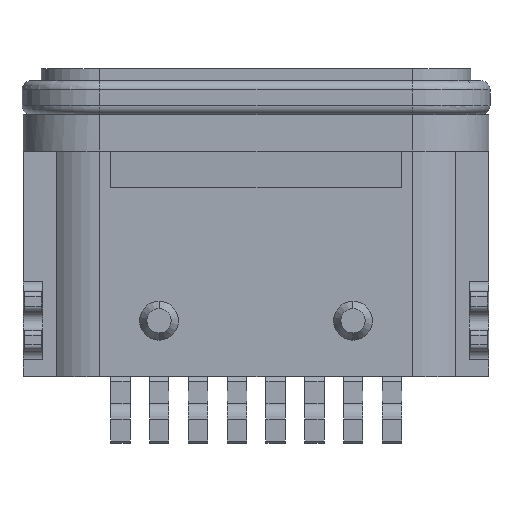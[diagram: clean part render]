
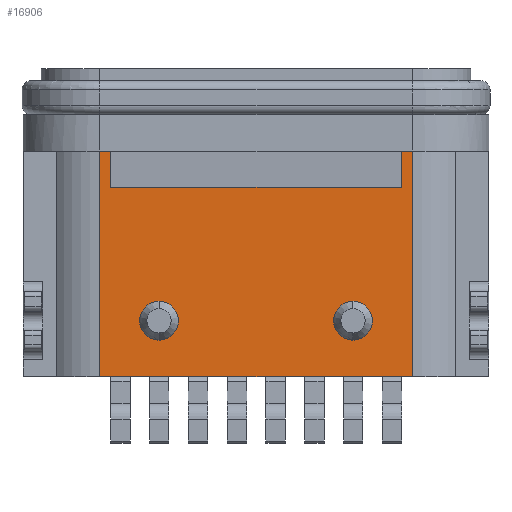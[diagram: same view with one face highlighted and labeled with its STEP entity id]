
A CAD part, front view. The second image highlights one B-rep face of the part: STEP entity #16906.
In plain terms, the highlighted planar face has unit normal (0, -1, 0).
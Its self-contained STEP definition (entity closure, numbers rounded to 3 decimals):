
#177 = VECTOR ( 'NONE', #20867, 1000. ) ;
#455 = LINE ( 'NONE', #6515, #15494 ) ;
#530 = VERTEX_POINT ( 'NONE', #16602 ) ;
#555 = ORIENTED_EDGE ( 'NONE', *, *, #2419, .T. ) ;
#597 = CARTESIAN_POINT ( 'NONE',  ( -59.841, -32.397, 72.297 ) ) ;
#601 = CARTESIAN_POINT ( 'NONE',  ( -58.093, -32.397, 69.542 ) ) ;
#839 = LINE ( 'NONE', #1102, #16344 ) ;
#1102 = CARTESIAN_POINT ( 'NONE',  ( -59.493, -32.397, 68.312 ) ) ;
#1457 = VERTEX_POINT ( 'NONE', #2686 ) ;
#1496 = ORIENTED_EDGE ( 'NONE', *, *, #19149, .F. ) ;
#1603 = ORIENTED_EDGE ( 'NONE', *, *, #16473, .T. ) ;
#1640 = EDGE_CURVE ( 'NONE', #20247, #12661, #3957, .T. ) ;
#1736 = CARTESIAN_POINT ( 'NONE',  ( -54.892, -32.397, 69.542 ) ) ;
#1850 = CARTESIAN_POINT ( 'NONE',  ( -58.892, -32.397, 69.542 ) ) ;
#2293 = CARTESIAN_POINT ( 'NONE',  ( -59.713, -32.397, 68.312 ) ) ;
#2419 = EDGE_CURVE ( 'NONE', #18925, #17458, #455, .T. ) ;
#2591 = EDGE_CURVE ( 'NONE', #18925, #11196, #839, .T. ) ;
#2686 = CARTESIAN_POINT ( 'NONE',  ( -53.273, -32.397, 73.042 ) ) ;
#2930 = ORIENTED_EDGE ( 'NONE', *, *, #22454, .F. ) ;
#3292 = DIRECTION ( 'NONE',  ( -1., 0., 0. ) ) ;
#3957 = CIRCLE ( 'NONE', #7312, 0.4 ) ;
#4138 = ORIENTED_EDGE ( 'NONE', *, *, #2591, .F. ) ;
#4174 = CIRCLE ( 'NONE', #23966, 0.4 ) ;
#4929 = DIRECTION ( 'NONE',  ( 0., -1., 0. ) ) ;
#5224 = CIRCLE ( 'NONE', #7340, 0.4 ) ;
#5239 = LINE ( 'NONE', #13291, #13227 ) ;
#5636 = DIRECTION ( 'NONE',  ( 1., 0., 0. ) ) ;
#6008 = ORIENTED_EDGE ( 'NONE', *, *, #9047, .F. ) ;
#6291 = ORIENTED_EDGE ( 'NONE', *, *, #12412, .F. ) ;
#6479 = DIRECTION ( 'NONE',  ( 1., 0., 0. ) ) ;
#6515 = CARTESIAN_POINT ( 'NONE',  ( -51.584, -32.397, 73.042 ) ) ;
#6533 = VERTEX_POINT ( 'NONE', #20828 ) ;
#7037 = DIRECTION ( 'NONE',  ( 1., 0., 0. ) ) ;
#7084 = CARTESIAN_POINT ( 'NONE',  ( -59.841, -32.397, 68.312 ) ) ;
#7312 = AXIS2_PLACEMENT_3D ( 'NONE', #17962, #18481, #6479 ) ;
#7340 = AXIS2_PLACEMENT_3D ( 'NONE', #8298, #7911, #24261 ) ;
#7740 = DIRECTION ( 'NONE',  ( 0., -1., 0. ) ) ;
#7911 = DIRECTION ( 'NONE',  ( 0., -1., 0. ) ) ;
#8167 = CARTESIAN_POINT ( 'NONE',  ( -61.349, -32.397, 68.392 ) ) ;
#8298 = CARTESIAN_POINT ( 'NONE',  ( -54.493, -32.397, 69.542 ) ) ;
#8419 = DIRECTION ( 'NONE',  ( 1., 0., 0. ) ) ;
#9047 = EDGE_CURVE ( 'NONE', #21739, #10468, #10869, .T. ) ;
#9327 = PLANE ( 'NONE',  #18644 ) ;
#9838 = CARTESIAN_POINT ( 'NONE',  ( -59.493, -32.397, 73.042 ) ) ;
#9839 = DIRECTION ( 'NONE',  ( 1., 0., 0. ) ) ;
#9893 = EDGE_CURVE ( 'NONE', #12661, #20247, #4174, .T. ) ;
#10006 = LINE ( 'NONE', #8167, #13482 ) ;
#10468 = VERTEX_POINT ( 'NONE', #24052 ) ;
#10523 = EDGE_LOOP ( 'NONE', ( #555, #6291, #18569, #2930, #1603, #25683, #1496, #4138 ) ) ;
#10869 = CIRCLE ( 'NONE', #23091, 0.4 ) ;
#10947 = EDGE_LOOP ( 'NONE', ( #24034, #25901 ) ) ;
#11196 = VERTEX_POINT ( 'NONE', #16703 ) ;
#11235 = ORIENTED_EDGE ( 'NONE', *, *, #22098, .F. ) ;
#12412 = EDGE_CURVE ( 'NONE', #19097, #17458, #14541, .T. ) ;
#12661 = VERTEX_POINT ( 'NONE', #1850 ) ;
#13058 = CARTESIAN_POINT ( 'NONE',  ( -59.713, -32.397, 73.042 ) ) ;
#13227 = VECTOR ( 'NONE', #19356, 1000. ) ;
#13291 = CARTESIAN_POINT ( 'NONE',  ( -53.273, -32.397, 68.312 ) ) ;
#13482 = VECTOR ( 'NONE', #8419, 1000. ) ;
#14541 = LINE ( 'NONE', #2293, #23640 ) ;
#15130 = FACE_BOUND ( 'NONE', #10947, .T. ) ;
#15494 = VECTOR ( 'NONE', #18388, 1000. ) ;
#15659 = FACE_OUTER_BOUND ( 'NONE', #10523, .T. ) ;
#16287 = CARTESIAN_POINT ( 'NONE',  ( -59.713, -32.397, 68.392 ) ) ;
#16344 = VECTOR ( 'NONE', #19168, 1000. ) ;
#16473 = EDGE_CURVE ( 'NONE', #1457, #530, #21766, .T. ) ;
#16602 = CARTESIAN_POINT ( 'NONE',  ( -53.493, -32.397, 73.042 ) ) ;
#16703 = CARTESIAN_POINT ( 'NONE',  ( -59.493, -32.397, 72.297 ) ) ;
#16906 = ADVANCED_FACE ( 'NONE', ( #15659, #25164, #15130 ), #9327, .F. ) ;
#17046 = CARTESIAN_POINT ( 'NONE',  ( -53.493, -32.397, 68.312 ) ) ;
#17382 = VECTOR ( 'NONE', #22231, 1000. ) ;
#17458 = VERTEX_POINT ( 'NONE', #13058 ) ;
#17962 = CARTESIAN_POINT ( 'NONE',  ( -58.493, -32.397, 69.542 ) ) ;
#18388 = DIRECTION ( 'NONE',  ( -1., 0., 0. ) ) ;
#18481 = DIRECTION ( 'NONE',  ( 0., -1., 0. ) ) ;
#18569 = ORIENTED_EDGE ( 'NONE', *, *, #21317, .T. ) ;
#18644 = AXIS2_PLACEMENT_3D ( 'NONE', #7084, #23175, #5636 ) ;
#18662 = LINE ( 'NONE', #597, #17382 ) ;
#18925 = VERTEX_POINT ( 'NONE', #9838 ) ;
#19097 = VERTEX_POINT ( 'NONE', #16287 ) ;
#19149 = EDGE_CURVE ( 'NONE', #11196, #25789, #18662, .T. ) ;
#19168 = DIRECTION ( 'NONE',  ( 0., 0., -1. ) ) ;
#19356 = DIRECTION ( 'NONE',  ( 0., 0., -1. ) ) ;
#19419 = LINE ( 'NONE', #17046, #177 ) ;
#19457 = EDGE_LOOP ( 'NONE', ( #11235, #6008 ) ) ;
#20247 = VERTEX_POINT ( 'NONE', #601 ) ;
#20625 = CARTESIAN_POINT ( 'NONE',  ( -53.493, -32.397, 72.297 ) ) ;
#20693 = EDGE_CURVE ( 'NONE', #25789, #530, #19419, .T. ) ;
#20764 = CARTESIAN_POINT ( 'NONE',  ( -54.493, -32.397, 69.542 ) ) ;
#20828 = CARTESIAN_POINT ( 'NONE',  ( -53.273, -32.397, 68.392 ) ) ;
#20867 = DIRECTION ( 'NONE',  ( 0., 0., 1. ) ) ;
#21317 = EDGE_CURVE ( 'NONE', #19097, #6533, #10006, .T. ) ;
#21569 = VECTOR ( 'NONE', #3292, 1000. ) ;
#21593 = CARTESIAN_POINT ( 'NONE',  ( -58.493, -32.397, 69.542 ) ) ;
#21739 = VERTEX_POINT ( 'NONE', #1736 ) ;
#21766 = LINE ( 'NONE', #25323, #21569 ) ;
#22098 = EDGE_CURVE ( 'NONE', #10468, #21739, #5224, .T. ) ;
#22231 = DIRECTION ( 'NONE',  ( 1., 0., 0. ) ) ;
#22454 = EDGE_CURVE ( 'NONE', #1457, #6533, #5239, .T. ) ;
#22594 = DIRECTION ( 'NONE',  ( 0., 0., 1. ) ) ;
#23091 = AXIS2_PLACEMENT_3D ( 'NONE', #20764, #4929, #7037 ) ;
#23175 = DIRECTION ( 'NONE',  ( 0., 1., 0. ) ) ;
#23640 = VECTOR ( 'NONE', #22594, 1000. ) ;
#23966 = AXIS2_PLACEMENT_3D ( 'NONE', #21593, #7740, #9839 ) ;
#24034 = ORIENTED_EDGE ( 'NONE', *, *, #1640, .F. ) ;
#24052 = CARTESIAN_POINT ( 'NONE',  ( -54.093, -32.397, 69.542 ) ) ;
#24261 = DIRECTION ( 'NONE',  ( 1., 0., 0. ) ) ;
#25164 = FACE_BOUND ( 'NONE', #19457, .T. ) ;
#25323 = CARTESIAN_POINT ( 'NONE',  ( -51.584, -32.397, 73.042 ) ) ;
#25683 = ORIENTED_EDGE ( 'NONE', *, *, #20693, .F. ) ;
#25789 = VERTEX_POINT ( 'NONE', #20625 ) ;
#25901 = ORIENTED_EDGE ( 'NONE', *, *, #9893, .F. ) ;
